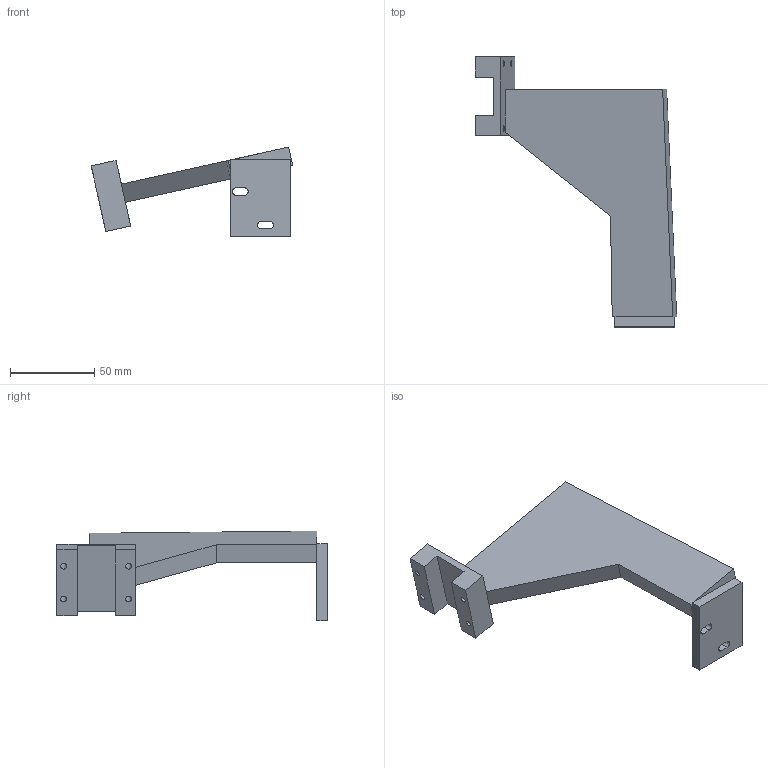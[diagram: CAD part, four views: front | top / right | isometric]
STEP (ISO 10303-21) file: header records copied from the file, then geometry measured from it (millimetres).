
FILE_DESCRIPTION(('Open CASCADE Model'),'2;1');
FILE_NAME('Open CASCADE Shape Model','2026-10-17T22:15:36',('Author'),( 'Open CASCADE'),'Open CASCADE STEP processor 7.9','Open CASCADE 7.9' ,'Unknown');
FILE_SCHEMA(('AUTOMOTIVE_DESIGN { 1 0 10303 214 1 1 1 1 }'));
Length unit declared in the file: millimetre
Products named in the file (1): Open CASCADE STEP translator 7.9 3
Bounding box: 119.82 x 160.71 x 53.46 mm (x, y, z)
Volume: 114151.5 mm3; surface area: 31259.5 mm2
Topology: 1 solids, 1 shells, 37 faces, 98 edges, 64 vertices
Faces by surface type: plane 29, cylinder 8
Full cylindrical faces by diameter (mm): 3.4 x4
Entity records: 2448 total; most frequent: CARTESIAN_POINT 536, DIRECTION 326, LINE 218, VECTOR 218, ORIENTED_EDGE 196, PCURVE 196, DEFINITIONAL_REPRESENTATION 196, EDGE_CURVE 98
